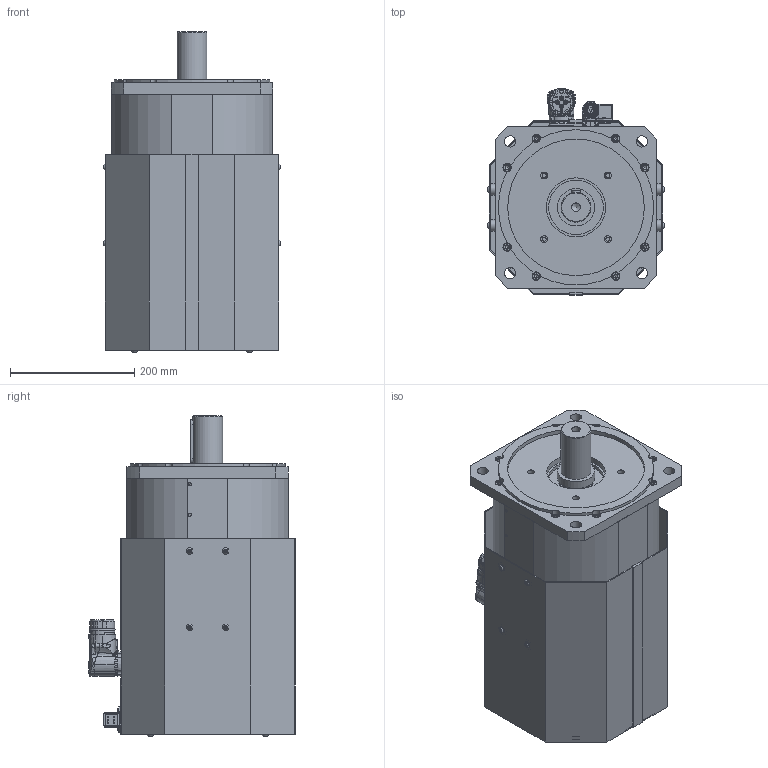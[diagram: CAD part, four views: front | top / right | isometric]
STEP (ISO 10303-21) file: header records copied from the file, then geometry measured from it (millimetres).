
FILE_DESCRIPTION(/* description */ (''),/* implementation_level */ '2;1');
FILE_NAME(/* name */ 'C:\Users\Public\Documents\Autodesk\Inventor LT 2014\Workspace\Motori Sito WEB\TG_7\DSF5_7\DSF5_72_x099 .stp',/* time_stamp */ '2021-10-28T15:16:07+02:00',/* author */ ('marcor'),/* organization */ (''),/* preprocessor_version */ 'ST-DEVELOPER v15.2',/* originating_system */ 'Autodesk Inventor LT ',/* authorisation */ '');
FILE_SCHEMA (('AUTOMOTIVE_DESIGN { 1 0 10303 214 3 1 1 }'));
Products named in the file (1): DSF5_72_x099 
Bounding box: 285.6 x 332.55 x 515.4 mm (x, y, z)
Volume: 19589874.7 mm3; surface area: 1624297.9 mm2
Topology: 40 solids, 67 shells, 2613 faces, 6506 edges, 4213 vertices
Faces by surface type: plane 1134, cylinder 585, cone 482, bspline 224, torus 155, sphere 33
Full cylindrical faces by diameter (mm): 1.2 x12, 2 x2, 2.013 x8, 2.2 x4, 2.224 x4, 2.4 x6, 2.459 x4, 2.5 x4, 2.88 x4, 3 x12, 3.242 x2, 3.26 x4, 3.5 x2, 3.6 x5, 4 x7, 4.5 x15, 4.8 x4, 4.917 x24, 5 x4, 5.4 x1, 5.5 x3, 5.9 x1, 6 x20, 6.5 x24, 6.647 x8, 7 x14, 7.5 x2, 8 x11, 8.376 x2, 8.5 x9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
Entity records: 85196 total; most frequent: CARTESIAN_POINT 26783, ORIENTED_EDGE 11310, DIRECTION 11127, EDGE_CURVE 5611, AXIS2_PLACEMENT_3D 4427, VERTEX_POINT 3949, EDGE_LOOP 3548, ADVANCED_FACE 2613
